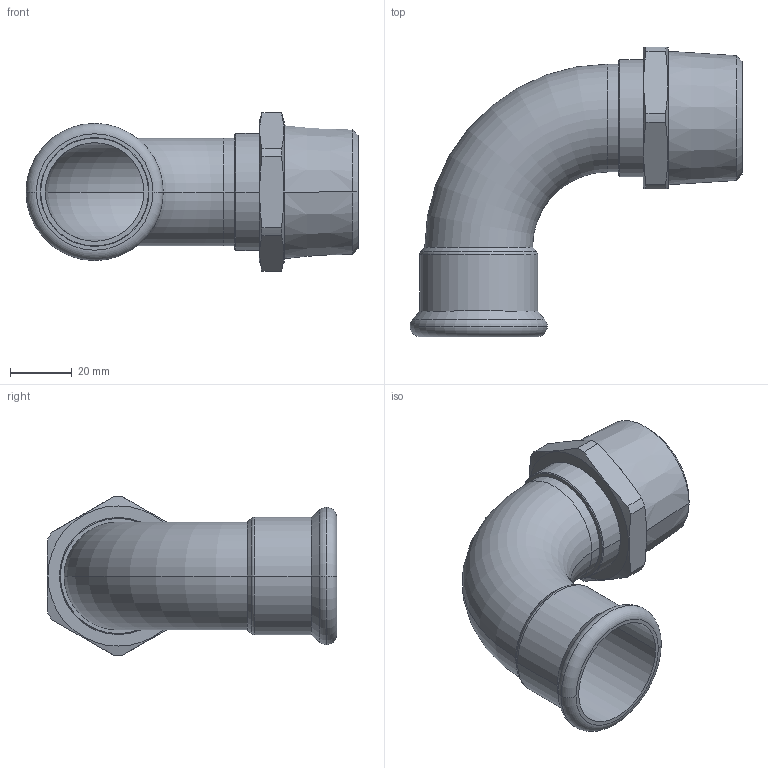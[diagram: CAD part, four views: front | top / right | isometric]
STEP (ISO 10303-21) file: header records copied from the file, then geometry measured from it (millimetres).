
FILE_DESCRIPTION(('CoCreate Modeling STEP Export'),'2;1');
FILE_NAME('C1430 35xR1 1-4.stp','2014-11-12T16:17:38',(''),(''),'CoCreate Modeling STEP processor for AP214 (Solid Model)','CoCreate Modeling 17.00A 17-Jun-2010 (C) Parametric Technology GmbH','');
FILE_SCHEMA(('AUTOMOTIVE_DESIGN { 1 0 10303 214 1 1 1 1 }'));
Length unit declared in the file: millimetre
Products named in the file (2): C1430_35xR1_1-4
Assembly tree (1 placements, depth 2):
  C1430_35xR1_1-4
    C1430_35xR1_1-4
Bounding box: 107.78 x 94 x 51.49 mm (x, y, z)
Volume: 41068.9 mm3; surface area: 33210 mm2
Topology: 1 solids, 1 shells, 62 faces, 142 edges, 89 vertices
Faces by surface type: cylinder 22, plane 16, cone 14, torus 10
Entity records: 2590 total; most frequent: CARTESIAN_POINT 1298, ORIENTED_EDGE 284, DIRECTION 224, EDGE_CURVE 142, AXIS2_PLACEMENT_3D 91, VERTEX_POINT 89, EDGE_LOOP 71, FACE_OUTER_BOUND 62
